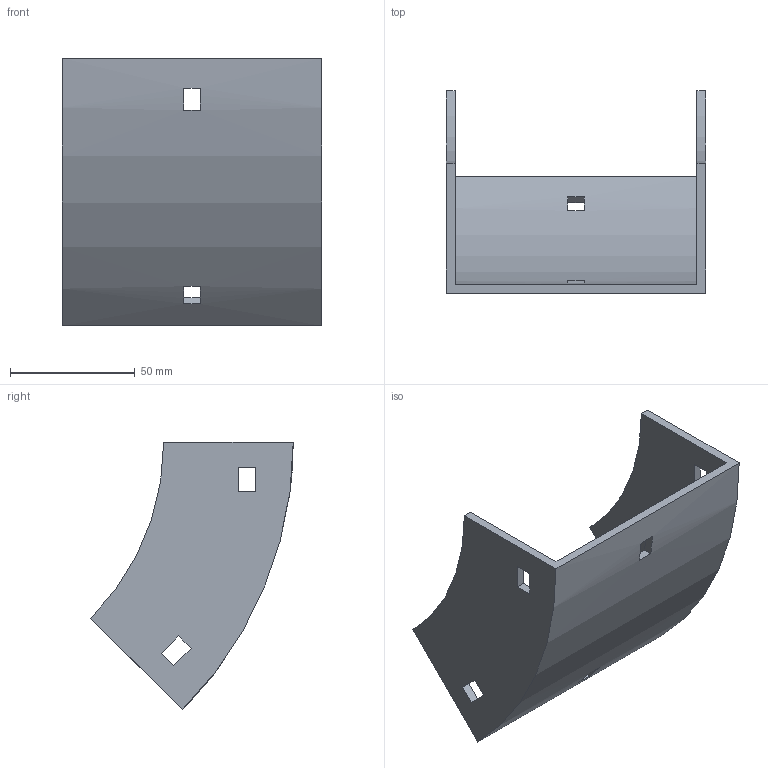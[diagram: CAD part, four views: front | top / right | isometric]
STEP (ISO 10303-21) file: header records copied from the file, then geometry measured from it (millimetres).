
FILE_DESCRIPTION (( 'STEP AP214' ), '1' );
FILE_NAME ('31B1B100.step', '2025-02-21T09:46:31', ( '' ), ( '' ), 'SwSTEP 2.0', 'SolidWorks 2023', '' );
FILE_SCHEMA (( 'AUTOMOTIVE_DESIGN' ));
Length unit declared in the file: millimetre
Products named in the file (1): 31B1B100
Bounding box: 104 x 81.29 x 107.48 mm (x, y, z)
Volume: 74692.5 mm3; surface area: 45342.2 mm2
Topology: 1 solids, 1 shells, 34 faces, 96 edges, 64 vertices
Faces by surface type: plane 30, cylinder 4
Entity records: 1143 total; most frequent: CARTESIAN_POINT 195, ORIENTED_EDGE 192, DIRECTION 182, EDGE_CURVE 96, LINE 80, VECTOR 80, VERTEX_POINT 64, AXIS2_PLACEMENT_3D 51
